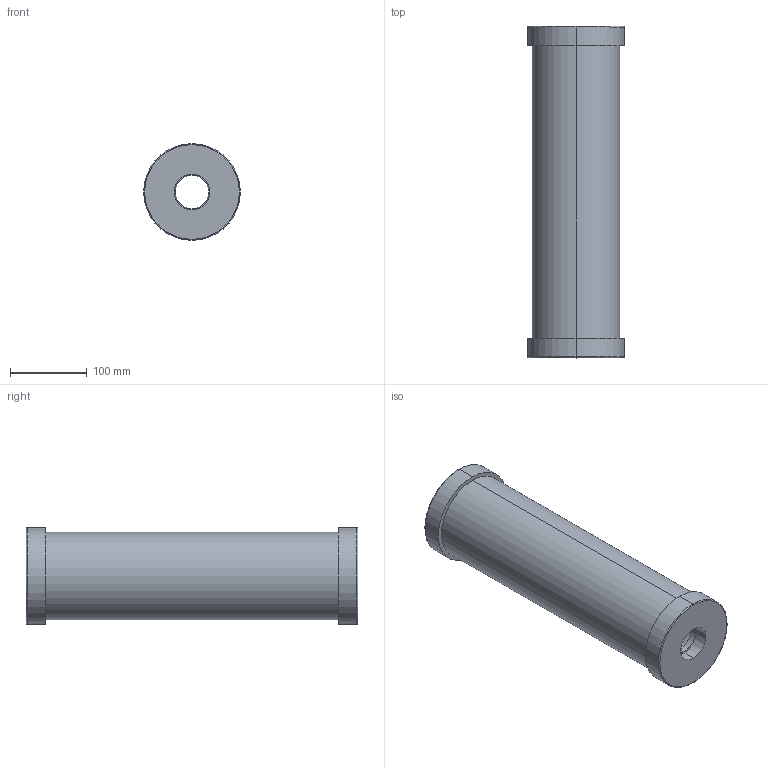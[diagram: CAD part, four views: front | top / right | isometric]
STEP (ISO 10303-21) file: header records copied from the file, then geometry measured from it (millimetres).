
FILE_DESCRIPTION (( 'STEP AP203' ), '1' );
FILE_NAME ('CC3000_P_NPT.STEP', '2016-03-21T09:14:27', ( '' ), ( '' ), 'SwSTEP 2.0', 'SolidWorks 2014', '' );
FILE_SCHEMA (( 'CONFIG_CONTROL_DESIGN' ));
Length unit declared in the file: inch
Products named in the file (2): CC3000_P_NPT
Bounding box: 125.73 x 431.8 x 125.73 mm (x, y, z)
Volume: 1400562.1 mm3; surface area: 323701.1 mm2
Topology: 1 solids, 1 shells, 28 faces, 56 edges, 36 vertices
Faces by surface type: cylinder 12, plane 8, torus 4, cone 4
Entity records: 909 total; most frequent: DIRECTION 156, CARTESIAN_POINT 122, ORIENTED_EDGE 112, AXIS2_PLACEMENT_3D 70, EDGE_CURVE 56, CIRCLE 40, VERTEX_POINT 36, EDGE_LOOP 36
